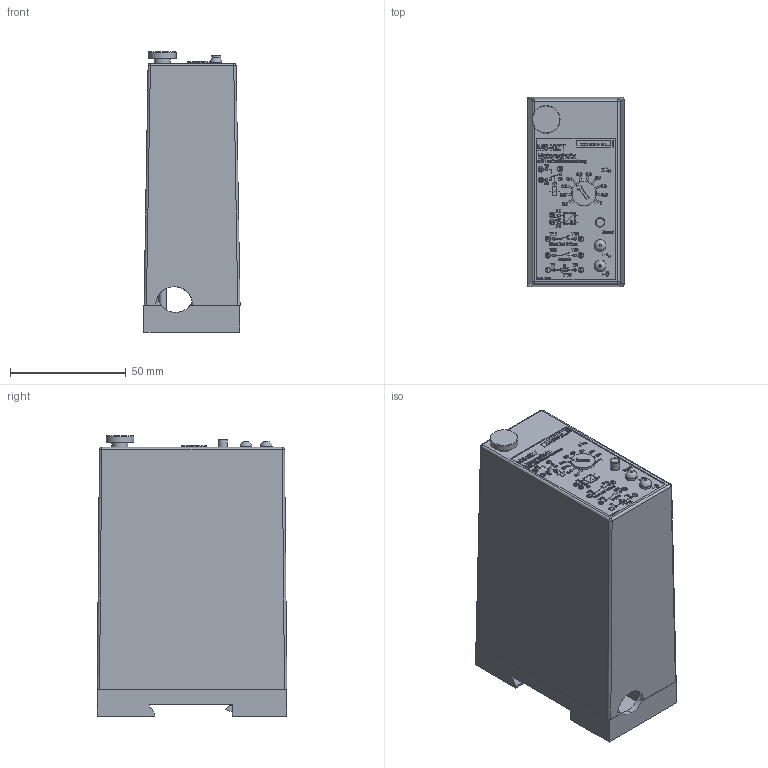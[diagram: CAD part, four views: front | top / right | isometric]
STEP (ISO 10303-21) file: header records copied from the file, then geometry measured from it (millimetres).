
FILE_DESCRIPTION (( 'STEP AP214' ), '1' );
FILE_NAME ('08430-1900-00_3D.STEP', '2014-12-03T09:54:27', ( '' ), ( '' ), 'SwSTEP 2.0', 'SolidWorks 2014', '' );
FILE_SCHEMA (( 'AUTOMOTIVE_DESIGN' ));
Length unit declared in the file: millimetre
Products named in the file (4): 843 1201_3D; Kopie von 02920-1910-00_3D_Sockel_ohne Details^08430-1900-00_3D; Kopie von 02920-1909-00_3D_S12_ohne Muster^08430-1900-00_3D; 08430-1900-00_3D
Assembly tree (3 placements, depth 2):
  08430-1900-00_3D
    Kopie von 02920-1909-00_3D_S12_ohne Muster^08430-1900-00_3D
    Kopie von 02920-1910-00_3D_Sockel_ohne Details^08430-1900-00_3D
    843 1201_3D
Bounding box: 41.55 x 82 x 121.15 mm (x, y, z)
Volume: 317198.7 mm3; surface area: 48570.2 mm2
Topology: 255 solids, 255 shells, 5141 faces, 13836 edges, 9217 vertices
Faces by surface type: plane 4620, bspline 481, cylinder 33, sphere 4, cone 2, torus 1
Full cylindrical faces by diameter (mm): 3.2 x2, 5 x2, 6.5 x1, 7 x1, 8 x1, 9 x1, 10.6 x1, 12 x1, 16 x1
Entity records: 173700 total; most frequent: CARTESIAN_POINT 44656, ORIENTED_EDGE 27612, DIRECTION 22220, EDGE_CURVE 13806, LINE 12774, VECTOR 12774, VERTEX_POINT 9214, EDGE_LOOP 5350
